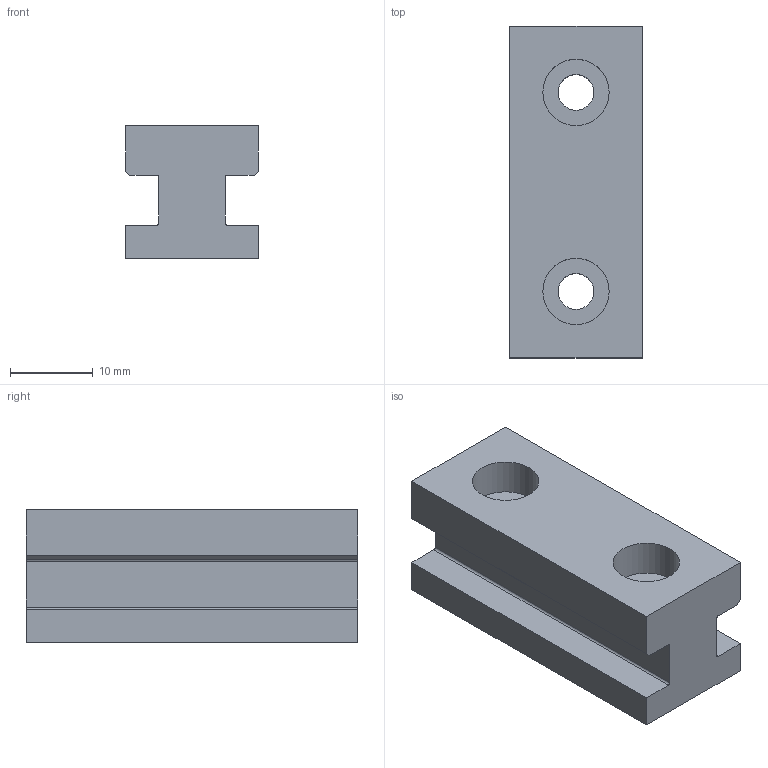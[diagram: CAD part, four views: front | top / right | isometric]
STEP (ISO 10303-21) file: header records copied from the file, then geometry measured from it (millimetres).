
FILE_DESCRIPTION (( 'STEP AP214' ), '1' );
FILE_NAME ('Schieberführung Mitte_-_16 x 16 L=40.step', '2024-01-10T12:53:18', ( '' ), ( '' ), 'SwSTEP 2.0', 'SolidWorks 2020', '' );
FILE_SCHEMA (( 'AUTOMOTIVE_DESIGN' ));
Length unit declared in the file: millimetre
Products named in the file (1): Schieberführung Mitte_-_16 x 16 L=40
Bounding box: 16 x 40 x 16 mm (x, y, z)
Volume: 7532.4 mm3; surface area: 4056.7 mm2
Topology: 1 solids, 1 shells, 139 faces, 363 edges, 242 vertices
Faces by surface type: plane 85, bspline 46, cylinder 8
Full cylindrical faces by diameter (mm): 4.3 x2, 8 x2
Entity records: 6555 total; most frequent: CARTESIAN_POINT 3403, ORIENTED_EDGE 718, DIRECTION 471, EDGE_CURVE 359, VECTOR 251, LINE 251, VERTEX_POINT 242, EDGE_LOOP 163
